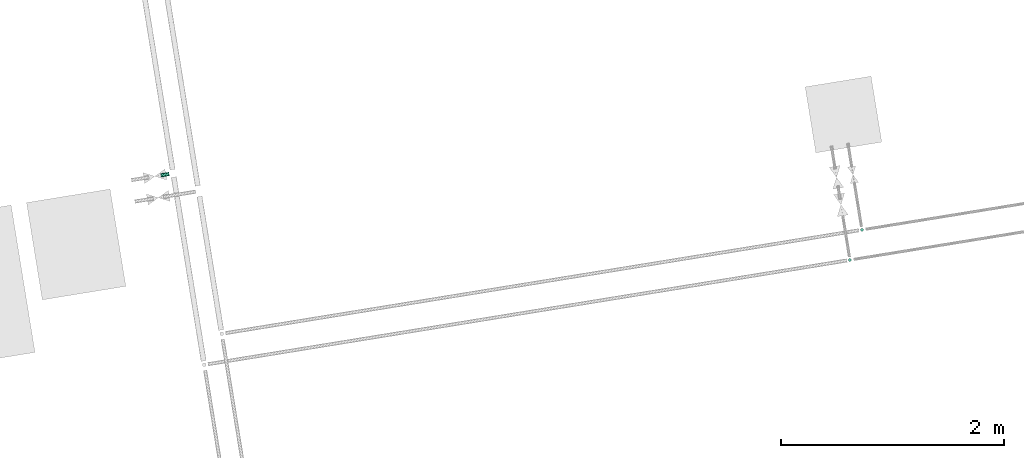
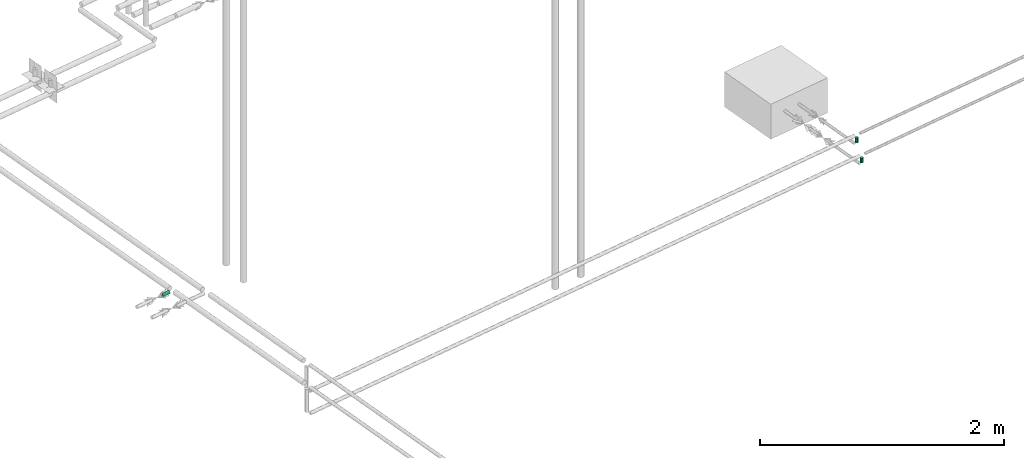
# One storey, part 4 of 8: 3 flow segments.
"""IFC2X3 building model written with IfcOpenShell, lengths in millimetres."""

from ifc_helpers import new_model, entity, si_unit, converted_unit, derived_unit, direction, frame, origin, origin_with_axes, origin_2d_with_axis, place, context, subcontext, project, spatial, circle, extrude, type_object, element, save


model = new_model("IFC2X3")

# Units and contexts
model_context = context("Model", 3, precision=0.01, world=origin(), true_north=direction((6.12323399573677e-17, 1.0)))
plan_context = context("Plan", 3, precision=1e-05, world=origin_with_axes())
body_context = subcontext(model_context, "Body", "Model", "MODEL_VIEW")
ifc_project = project(units=[converted_unit("PLANEANGLEUNIT", "DEGREE", entity("IfcPositiveLengthMeasure", 0.0174532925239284), si_unit("PLANEANGLEUNIT", "RADIAN"), dimensions=[0, 0, 0, 0, 0, 0, 0]), si_unit("AREAUNIT", "SQUARE_METRE"), si_unit("LENGTHUNIT", "METRE", prefix="MILLI"), si_unit("MASSUNIT", "GRAM", prefix="KILO"), si_unit("POWERUNIT", "WATT"), si_unit("PRESSUREUNIT", "PASCAL", prefix="KILO"), si_unit("FORCEUNIT", "NEWTON", prefix="KILO"), si_unit("ELECTRICVOLTAGEUNIT", "VOLT"), si_unit("ELECTRICCURRENTUNIT", "AMPERE"), si_unit("THERMODYNAMICTEMPERATUREUNIT", "DEGREE_CELSIUS"), si_unit("TIMEUNIT", "SECOND"), si_unit("VOLUMEUNIT", "CUBIC_METRE"), derived_unit("LINEARVELOCITYUNIT", [(si_unit("LENGTHUNIT", "METRE"), 1), (si_unit("TIMEUNIT", "SECOND"), -1)]), derived_unit("VOLUMETRICFLOWRATEUNIT", [(si_unit("VOLUMEUNIT", "CUBIC_METRE"), 1), (si_unit("TIMEUNIT", "SECOND"), -1)]), derived_unit("THERMALTRANSMITTANCEUNIT", [(si_unit("POWERUNIT", "WATT"), 1), (si_unit("THERMODYNAMICTEMPERATUREUNIT", "KELVIN"), -1), (si_unit("AREAUNIT", "SQUARE_METRE"), -1)]), derived_unit("SOUNDPRESSUREUNIT", [(si_unit("PRESSUREUNIT", "PASCAL"), 1)])], contexts=[model_context, plan_context])

# Site, building, storey
site_placement = place(None, frame((-0.00071070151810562, 0.00438415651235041, 0.0), z_axis=(0.0, 0.0, 1.0), x_axis=(-0.160236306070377, 0.987078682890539, 0.0)))
site = spatial("IfcSite", under=ifc_project, at=site_placement, Name="Default", CompositionType="ELEMENT")
building_placement = place(site_placement, origin_with_axes())
building = spatial("IfcBuilding", under=site, at=building_placement, CompositionType="ELEMENT")
storey_placement = place(building_placement, frame((0.0, 0.0, 50999.9999999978), z_axis=(0.0, 0.0, 1.0), x_axis=(1.0, 0.0, 0.0)))
storey = spatial("IfcBuildingStorey", under=building, at=storey_placement, Name="Nivå D", CompositionType="ELEMENT", Elevation=50999.9999999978)

# Flow segments
pipe_segment_type = type_object("IfcPipeSegmentType", Name="Pipe Types:Stålrør syrefast AISI 316", PredefinedType="NOTDEFINED")
flow_segment_1_placement = place(storey_placement, origin_with_axes())
element("IfcFlowSegment", 1, at=flow_segment_1_placement, inside=storey, type_object=pipe_segment_type, Name="Pipe Types:Stålrør syrefast AISI 316", ObjectType="Pipe Types:Stålrør syrefast AISI 316", context=body_context, shape_type="SweptSolid", body=[
    extrude(circle(Radius=13.3500004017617, at=origin_2d_with_axis()), frame((772370.699644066, -597013.047041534, 2926.8)), (0.0, 0.0, 1.0), 47.8499999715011),
])
flow_segment_2_placement = place(storey_placement, origin_with_axes())
element("IfcFlowSegment", 2, at=flow_segment_2_placement, inside=storey, type_object=pipe_segment_type, Name="Pipe Types:Stålrør syrefast AISI 316", ObjectType="Pipe Types:Stålrør syrefast AISI 316", context=body_context, shape_type="SweptSolid", body=[
    extrude(circle(Radius=13.3500004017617, at=origin_2d_with_axis()), frame((772620.737804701, -597163.047041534, 2926.8)), (0.0, 0.0, 1.0), 47.8499999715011),
])
flow_segment_3_placement = place(storey_placement, origin_with_axes())
element("IfcFlowSegment", 3, at=flow_segment_3_placement, inside=storey, type_object=pipe_segment_type, Name="Pipe Types:Stålrør syrefast AISI 316", ObjectType="Pipe Types:Stålrør syrefast AISI 316", context=body_context, shape_type="SweptSolid", body=[
    extrude(circle(Radius=16.8500004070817, at=origin_2d_with_axis()), frame((774112.418888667, -591103.156821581, 3300.0), z_axis=(0.0, 1.0, 0.0), x_axis=(1.0, 0.0, 0.0)), (0.0, 0.0, 1.0), 75.5750000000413),
])

save(model, "model.ifc")
